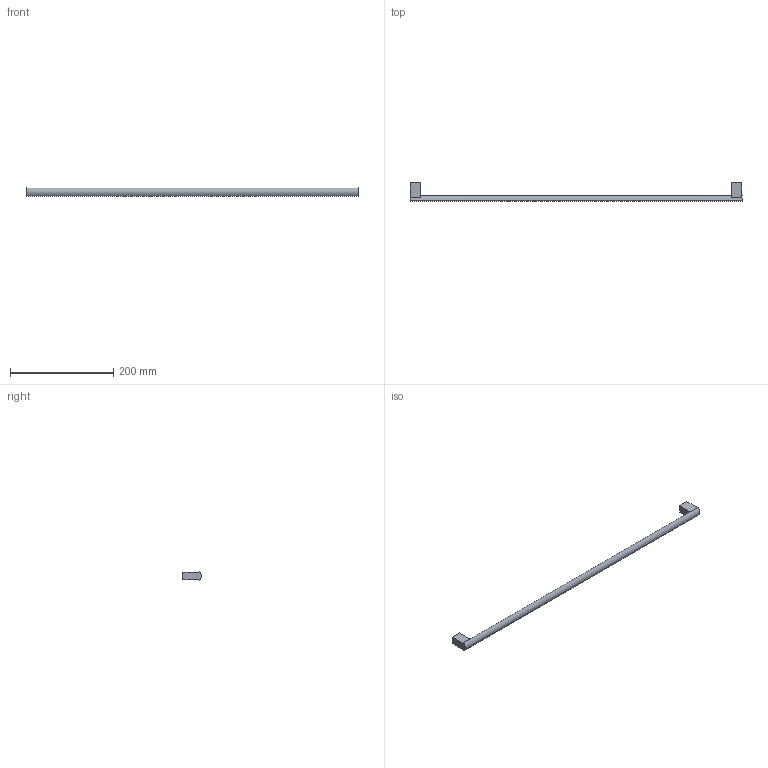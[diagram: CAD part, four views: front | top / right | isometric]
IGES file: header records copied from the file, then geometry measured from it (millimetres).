
Start section: Data from Parasolid IGES Translator 20.0.26, Copyright(c) 2006 Siemens P LM Software. All Rights Reserved.
Global section: file name: 115364.igs; native system: By Siemens PLM Incorporated; preprocessor: XPlus GENERIC/IGES 20.0.26; author: Noname; organization: Noname; date: 20230220.164015; units: millimetre
Bounding box: 644 x 35.96 x 16 mm (x, y, z)
Surface area: 31776.1 mm2 (no closed solid volume)
Topology: 0 solids, 0 shells, 22 faces, 102 edges, 100 vertices
Faces by surface type: extrusion 17, revolution 5
